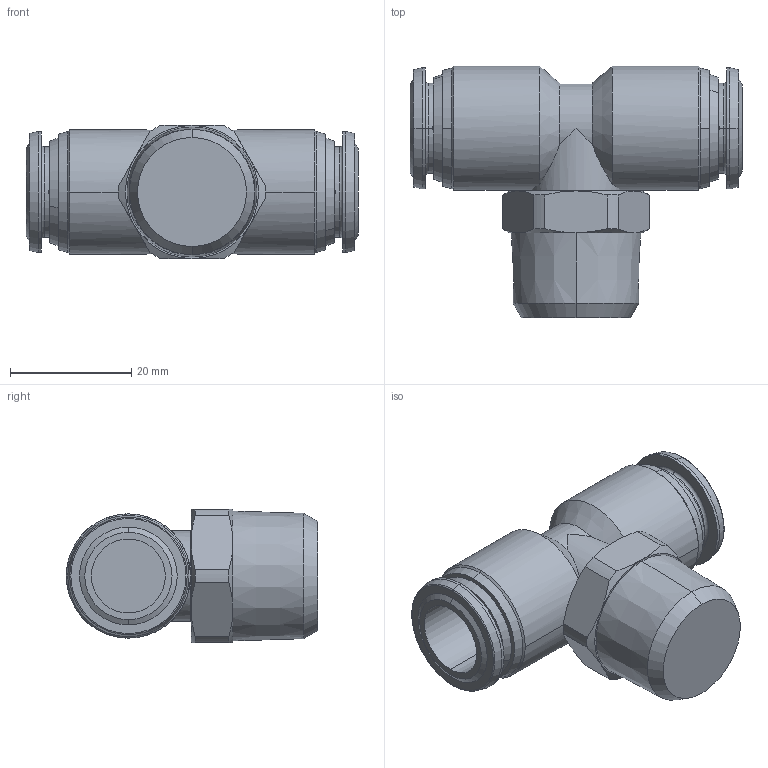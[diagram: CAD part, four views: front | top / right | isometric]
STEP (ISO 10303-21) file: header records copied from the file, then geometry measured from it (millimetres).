
FILE_DESCRIPTION (( 'STEP AP214' ), '1' );
FILE_NAME ('60210X0011.STEP', '2020-08-05T09:15:03', ( '' ), ( '' ), 'SwSTEP 2.0', 'SolidWorks 2016', '' );
FILE_SCHEMA (( 'AUTOMOTIVE_DESIGN' ));
Length unit declared in the file: millimetre
Products named in the file (1): 60210X0011
Bounding box: 54.8 x 41.5 x 22 mm (x, y, z)
Volume: 18499.5 mm3; surface area: 8323.7 mm2
Topology: 1 solids, 3 shells, 162 faces, 384 edges, 241 vertices
Faces by surface type: plane 59, cylinder 52, cone 43, torus 8
Entity records: 6464 total; most frequent: CARTESIAN_POINT 1107, DIRECTION 847, ORIENTED_EDGE 768, EDGE_CURVE 384, AXIS2_PLACEMENT_3D 344, VERTEX_POINT 241, CIRCLE 181, EDGE_LOOP 175
